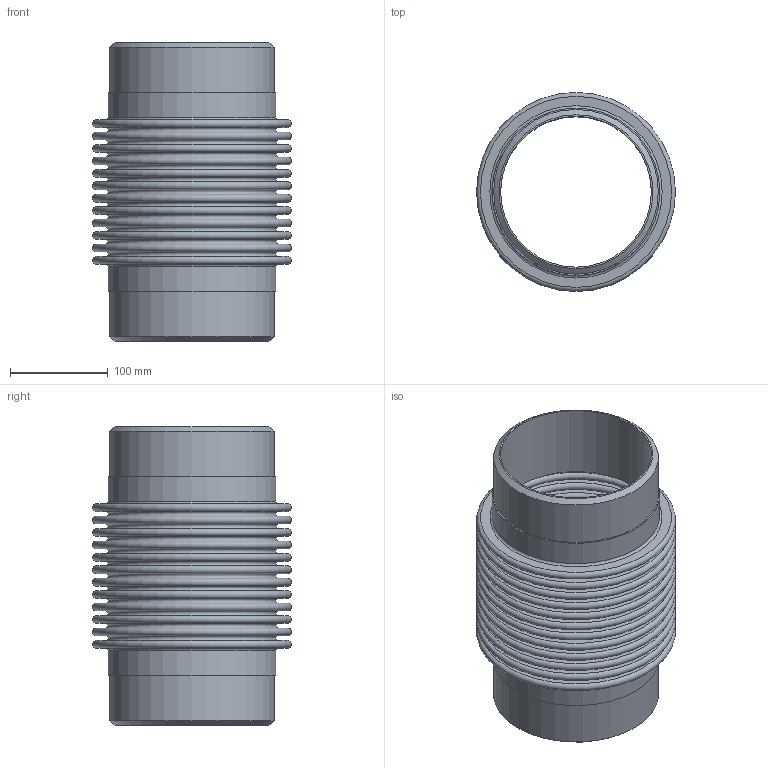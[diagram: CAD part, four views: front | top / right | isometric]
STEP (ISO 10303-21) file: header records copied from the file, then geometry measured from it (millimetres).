
FILE_DESCRIPTION(/* description */ ('EXPANSION JOINT,SINGLE, WELD ENDS,4 INCH NOMINAL'),/* implementation_level */ '2;1');
FILE_NAME(/* name */ 'ASSEMBLY US-6-12-300L.stp',/* time_stamp */ '2026-07-28T16:08:08-05:00',/* author */ ('jorgef'),/* organization */ (''),/* preprocessor_version */ 'ST-DEVELOPER v20.1',/* originating_system */ 'Autodesk Inventor 2026',/* authorisation */ '');
FILE_SCHEMA (('AUTOMOTIVE_DESIGN { 1 0 10303 214 3 1 1 }'));
Length unit declared in the file: inch
Products named in the file (3): ASSEMBLY  US-6-12-300L; STOCK BELLOW - US-6-12-300L; PIPE- US-6-12-300L
Assembly tree (3 placements, depth 2):
  ASSEMBLY  US-6-12-300L
    STOCK BELLOW - US-6-12-300L
    PIPE- US-6-12-300L  x2
Bounding box: 203.2 x 203.2 x 304.8 mm (x, y, z)
Volume: 995485.9 mm3; surface area: 772723.9 mm2
Topology: 5 solids, 5 shells, 118 faces, 180 edges, 121 vertices
Faces by surface type: plane 58, torus 50, cylinder 8, cone 2
Full cylindrical faces by diameter (mm): 154.051 x2, 168.275 x4, 171.323 x2
Entity records: 2769 total; most frequent: DIRECTION 573, CARTESIAN_POINT 405, ORIENTED_EDGE 342, AXIS2_PLACEMENT_3D 283, EDGE_CURVE 171, EDGE_LOOP 169, CIRCLE 164, VERTEX_POINT 114
